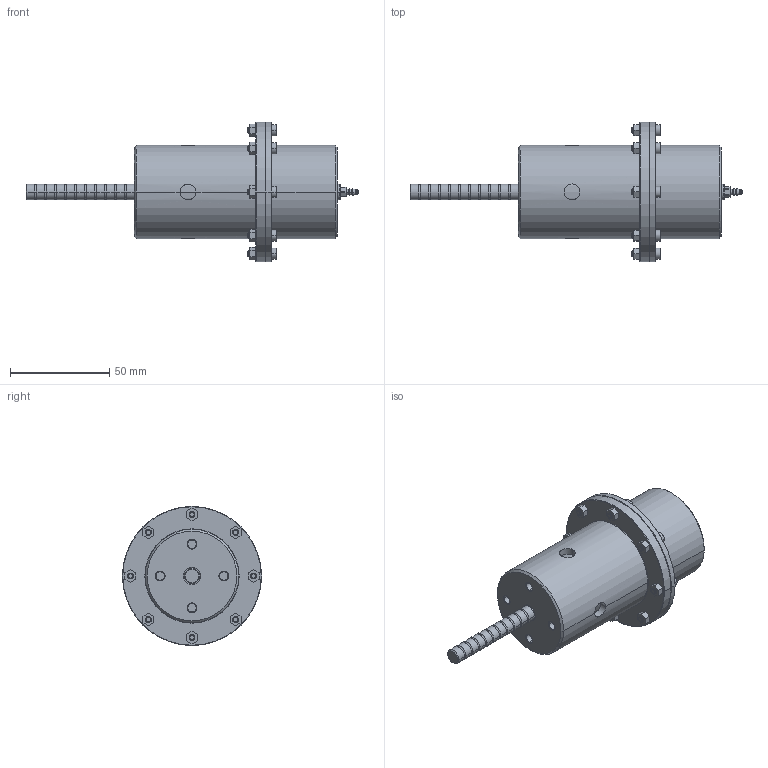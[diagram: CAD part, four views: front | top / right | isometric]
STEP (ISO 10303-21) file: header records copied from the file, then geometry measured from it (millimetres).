
FILE_DESCRIPTION((''),'2;1');
FILE_NAME('3368238_ASM','2021-11-30T10:55:17',('MMSFLEB'),(''),'CREO PARAMETRIC BY PTC INC, 2020342','CREO PARAMETRIC BY PTC INC, 2020342','');
FILE_SCHEMA(('CONFIG_CONTROL_DESIGN','SHAPE_APPEARANCE_LAYERS_GROUPS'));
Length unit declared in the file: millimetre
Products named in the file (11): 3368239; 3368235; 3368244; 3368245; 3212350; 3140261; 3140250; 2981774; 2981754; 4292381_AF0; 3368238_ASM
Assembly tree (24 placements, depth 2):
  3368238_ASM
    3368239
    3368235
    3368244
    3368245
    3212350  x8
    3140261  x8
    3140250
    2981774
    2981754
    4292381_AF0
Bounding box: 167 x 70 x 70 mm (x, y, z)
Volume: 123506.8 mm3; surface area: 60195.8 mm2
Topology: 24 solids, 54 shells, 688 faces, 1606 edges, 1001 vertices
Faces by surface type: cylinder 348, plane 156, cone 92, torus 74, bspline 18
Entity records: 22666 total; most frequent: CARTESIAN_POINT 7984, DIRECTION 2402, ORIENTED_EDGE 1864, AXIS2_PLACEMENT_3D 1038, PRESENTATION_STYLE_ASSIGNMENT 1019, STYLED_ITEM 1019, EDGE_CURVE 966, CURVE_STYLE 720
